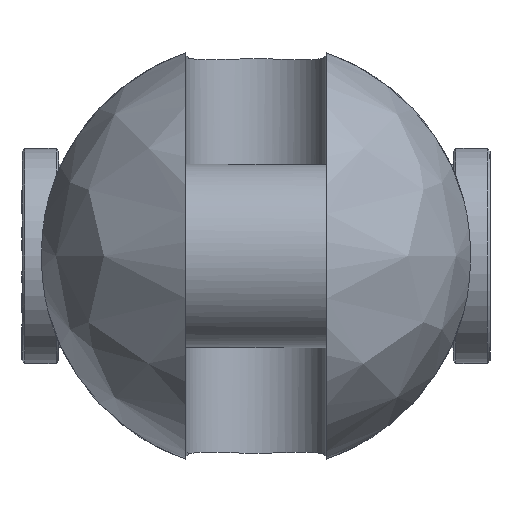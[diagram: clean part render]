
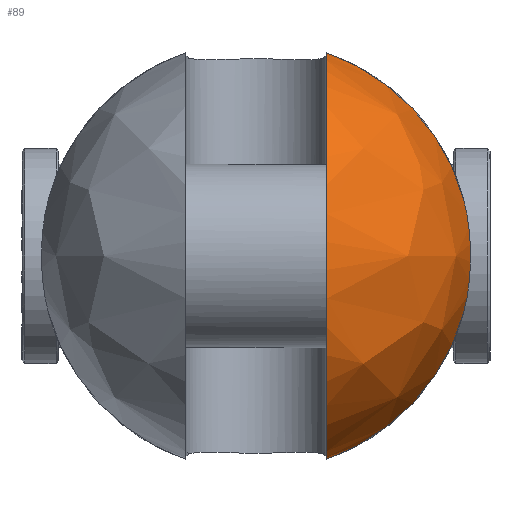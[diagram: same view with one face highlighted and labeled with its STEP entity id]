
A CAD part, left-side view. The second image highlights one B-rep face of the part: STEP entity #89.
In plain terms, the highlighted free-form (B-spline) face has degree [2, 2] with [9, 5] control points.
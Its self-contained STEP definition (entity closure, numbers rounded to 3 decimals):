
#89=ADVANCED_FACE('',(#164),#1306,.T.);
#164=FACE_OUTER_BOUND('',#249,.T.);
#249=EDGE_LOOP('',(#583,#584,#585,#586));
#583=ORIENTED_EDGE('',*,*,#807,.T.);
#584=ORIENTED_EDGE('',*,*,#835,.F.);
#585=ORIENTED_EDGE('',*,*,#847,.T.);
#586=ORIENTED_EDGE('',*,*,#827,.F.);
#807=EDGE_CURVE('',#1192,#1191,#1045,.T.);
#827=EDGE_CURVE('',#1192,#1204,#1055,.T.);
#835=EDGE_CURVE('',#1211,#1191,#1056,.T.);
#847=EDGE_CURVE('',#1211,#1204,#963,.T.);
#963=B_SPLINE_CURVE_WITH_KNOTS('',3,(#3120,#3121,#3122,#3123,#3124,#3125,
#3126,#3127,#3128,#3129,#3130,#3131,#3132,#3133),.UNSPECIFIED.,.F.,.F.,
(4,2,2,2,2,2,4),(0.,1.763,6.696,11.629,16.562,
21.494,23.258),.UNSPECIFIED.);
#1045=(
BOUNDED_CURVE()
B_SPLINE_CURVE(2,(#2896,#2897,#2898,#2899,#2900),.UNSPECIFIED.,.F.,.F.)
B_SPLINE_CURVE_WITH_KNOTS((3,2,3),(-121.623,-60.811,0.),
 .UNSPECIFIED.)
CURVE()
GEOMETRIC_REPRESENTATION_ITEM()
RATIONAL_B_SPLINE_CURVE((1.,0.707,1.,0.707,1.))
REPRESENTATION_ITEM('')
);
#1055=(
BOUNDED_CURVE()
B_SPLINE_CURVE(2,(#2990,#2991,#2992),.UNSPECIFIED.,.F.,.F.)
B_SPLINE_CURVE_WITH_KNOTS((3,3),(0.,39.557),.UNSPECIFIED.)
CURVE()
GEOMETRIC_REPRESENTATION_ITEM()
RATIONAL_B_SPLINE_CURVE((1.,0.886,1.))
REPRESENTATION_ITEM('')
);
#1056=(
BOUNDED_CURVE()
B_SPLINE_CURVE(2,(#3047,#3048,#3049),.UNSPECIFIED.,.F.,.F.)
B_SPLINE_CURVE_WITH_KNOTS((3,3),(0.,39.557),.UNSPECIFIED.)
CURVE()
GEOMETRIC_REPRESENTATION_ITEM()
RATIONAL_B_SPLINE_CURVE((1.,0.886,1.))
REPRESENTATION_ITEM('')
);
#1191=VERTEX_POINT('',#2837);
#1192=VERTEX_POINT('',#2838);
#1204=VERTEX_POINT('',#2850);
#1211=VERTEX_POINT('',#2857);
#1306=(
BOUNDED_SURFACE()
B_SPLINE_SURFACE(2,2,((#2445,#2446,#2447,#2448,#2449),(#2450,#2451,#2452,
#2453,#2454),(#2455,#2456,#2457,#2458,#2459),(#2460,#2461,#2462,#2463,#2464),
(#2465,#2466,#2467,#2468,#2469),(#2470,#2471,#2472,#2473,#2474),(#2475,
#2476,#2477,#2478,#2479),(#2480,#2481,#2482,#2483,#2484),(#2485,#2486,#2487,
#2488,#2489)),.UNSPECIFIED.,.T.,.F.,.F.)
B_SPLINE_SURFACE_WITH_KNOTS((3,2,2,2,3),(3,2,3),(0.,64.403,128.805,
193.208,257.611),(0.,64.403,128.805),
 .UNSPECIFIED.)
GEOMETRIC_REPRESENTATION_ITEM()
RATIONAL_B_SPLINE_SURFACE(((1.,0.707,1.,0.707,1.),
(0.707,0.5,0.707,0.5,0.707),(1.,0.707,
1.,0.707,1.),(0.707,0.5,0.707,0.5,0.707),
(1.,0.707,1.,0.707,1.),(0.707,0.5,0.707,
0.5,0.707),(1.,0.707,1.,0.707,1.),(0.707,
0.5,0.707,0.5,0.707),(1.,0.707,1.,0.707,
1.)))
REPRESENTATION_ITEM('')
SURFACE()
);
#2445=CARTESIAN_POINT('',(-59.5,0.,0.));
#2446=CARTESIAN_POINT('',(-59.5,41.,0.));
#2447=CARTESIAN_POINT('',(-18.5,41.,0.));
#2448=CARTESIAN_POINT('',(22.5,41.,0.));
#2449=CARTESIAN_POINT('',(22.5,0.,0.));
#2450=CARTESIAN_POINT('',(-59.5,0.,0.));
#2451=CARTESIAN_POINT('',(-59.5,41.,41.));
#2452=CARTESIAN_POINT('',(-18.5,41.,41.));
#2453=CARTESIAN_POINT('',(22.5,41.,41.));
#2454=CARTESIAN_POINT('',(22.5,0.,0.));
#2455=CARTESIAN_POINT('',(-59.5,0.,0.));
#2456=CARTESIAN_POINT('',(-59.5,0.,41.));
#2457=CARTESIAN_POINT('',(-18.5,0.,41.));
#2458=CARTESIAN_POINT('',(22.5,0.,41.));
#2459=CARTESIAN_POINT('',(22.5,0.,0.));
#2460=CARTESIAN_POINT('',(-59.5,0.,0.));
#2461=CARTESIAN_POINT('',(-59.5,-41.,41.));
#2462=CARTESIAN_POINT('',(-18.5,-41.,41.));
#2463=CARTESIAN_POINT('',(22.5,-41.,41.));
#2464=CARTESIAN_POINT('',(22.5,0.,0.));
#2465=CARTESIAN_POINT('',(-59.5,0.,0.));
#2466=CARTESIAN_POINT('',(-59.5,-41.,0.));
#2467=CARTESIAN_POINT('',(-18.5,-41.,0.));
#2468=CARTESIAN_POINT('',(22.5,-41.,0.));
#2469=CARTESIAN_POINT('',(22.5,0.,0.));
#2470=CARTESIAN_POINT('',(-59.5,0.,0.));
#2471=CARTESIAN_POINT('',(-59.5,-41.,-41.));
#2472=CARTESIAN_POINT('',(-18.5,-41.,-41.));
#2473=CARTESIAN_POINT('',(22.5,-41.,-41.));
#2474=CARTESIAN_POINT('',(22.5,0.,0.));
#2475=CARTESIAN_POINT('',(-59.5,0.,0.));
#2476=CARTESIAN_POINT('',(-59.5,0.,-41.));
#2477=CARTESIAN_POINT('',(-18.5,0.,-41.));
#2478=CARTESIAN_POINT('',(22.5,0.,-41.));
#2479=CARTESIAN_POINT('',(22.5,0.,0.));
#2480=CARTESIAN_POINT('',(-59.5,0.,0.));
#2481=CARTESIAN_POINT('',(-59.5,41.,-41.));
#2482=CARTESIAN_POINT('',(-18.5,41.,-41.));
#2483=CARTESIAN_POINT('',(22.5,41.,-41.));
#2484=CARTESIAN_POINT('',(22.5,0.,0.));
#2485=CARTESIAN_POINT('',(-59.5,0.,0.));
#2486=CARTESIAN_POINT('',(-59.5,41.,0.));
#2487=CARTESIAN_POINT('',(-18.5,41.,0.));
#2488=CARTESIAN_POINT('',(22.5,41.,0.));
#2489=CARTESIAN_POINT('',(22.5,0.,0.));
#2837=CARTESIAN_POINT('',(-18.5,-13.5,-38.714));
#2838=CARTESIAN_POINT('',(-18.5,-13.5,38.714));
#2850=CARTESIAN_POINT('',(-18.5,-39.509,10.954));
#2857=CARTESIAN_POINT('',(-18.5,-39.509,-10.954));
#2896=CARTESIAN_POINT('',(-18.5,-13.5,38.714));
#2897=CARTESIAN_POINT('',(-57.214,-13.5,38.714));
#2898=CARTESIAN_POINT('',(-57.214,-13.5,0.));
#2899=CARTESIAN_POINT('',(-57.214,-13.5,-38.714));
#2900=CARTESIAN_POINT('',(-18.5,-13.5,-38.714));
#2990=CARTESIAN_POINT('',(-18.5,-13.5,38.714));
#2991=CARTESIAN_POINT('',(-18.5,-33.773,31.644));
#2992=CARTESIAN_POINT('',(-18.5,-39.509,10.954));
#3047=CARTESIAN_POINT('',(-18.5,-39.509,-10.954));
#3048=CARTESIAN_POINT('',(-18.5,-33.773,-31.644));
#3049=CARTESIAN_POINT('',(-18.5,-13.5,-38.714));
#3120=CARTESIAN_POINT('',(-18.5,-39.509,-10.954));
#3121=CARTESIAN_POINT('',(-18.795,-39.647,-10.457));
#3122=CARTESIAN_POINT('',(-19.07,-39.776,-9.945));
#3123=CARTESIAN_POINT('',(-20.039,-40.225,-7.959));
#3124=CARTESIAN_POINT('',(-20.59,-40.477,-6.4));
#3125=CARTESIAN_POINT('',(-21.321,-40.809,-3.216));
#3126=CARTESIAN_POINT('',(-21.5,-40.89,-1.59));
#3127=CARTESIAN_POINT('',(-21.5,-40.89,1.59));
#3128=CARTESIAN_POINT('',(-21.321,-40.809,3.216));
#3129=CARTESIAN_POINT('',(-20.59,-40.477,6.4));
#3130=CARTESIAN_POINT('',(-20.039,-40.225,7.959));
#3131=CARTESIAN_POINT('',(-19.07,-39.776,9.945));
#3132=CARTESIAN_POINT('',(-18.795,-39.647,10.457));
#3133=CARTESIAN_POINT('',(-18.5,-39.509,10.954));
